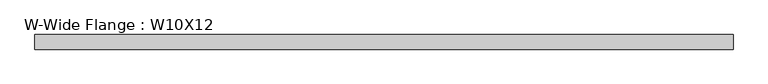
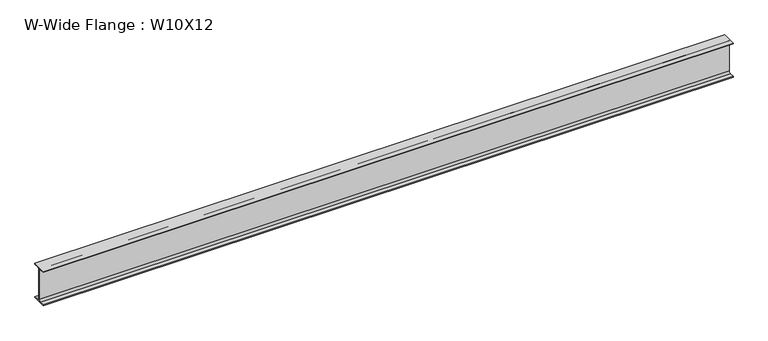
"""IFC4 building model written with IfcOpenShell, lengths in millimetres: beam geometry, W-Wide Flange : W10X12."""

from ifc_helpers import new_model, si_unit, point, frame, frame_2d, origin, place, context, project, spatial, polyline, circle_curve, trimmed, segment, composite_curve, outline, extrude, source, transform, mapped, element, save


def w_wide_flange_w10x12_ebacd2cb(model_context):
    return source(origin(), model_context, "Body", "SweptSolid", [
        extrude(outline(composite_curve([segment(polyline([(50.292, -120.015), (50.292, -125.349), (-50.292, -125.349), (-50.292, -120.015), (-16.129, -120.015)]), True, "CONTINUOUS"), segment(trimmed(circle_curve(frame_2d((-16.129, -106.299)), 13.716), [point((-16.129, -120.015))], [point((-2.413, -106.299))], True, "CARTESIAN"), True, "CONTINUOUS"), segment(polyline([(-2.413, -106.299), (-2.413, 106.299)]), True, "CONTINUOUS"), segment(trimmed(circle_curve(frame_2d((-16.129, 106.299)), 13.716), [point((-2.413, 106.299))], [point((-16.129, 120.015))], True, "CARTESIAN"), True, "CONTINUOUS"), segment(polyline([(-16.129, 120.015), (-50.292, 120.015), (-50.292, 125.349), (50.292, 125.349), (50.292, 120.015), (16.129, 120.015)]), True, "CONTINUOUS"), segment(trimmed(circle_curve(frame_2d((16.129, 106.299)), 13.716), [point((16.129, 120.015))], [point((2.413, 106.299))], True, "CARTESIAN"), True, "CONTINUOUS"), segment(polyline([(2.413, 106.299), (2.413, -106.299)]), True, "CONTINUOUS"), segment(trimmed(circle_curve(frame_2d((16.129, -106.299)), 13.716), [point((2.413, -106.299))], [point((16.129, -120.015))], True, "CARTESIAN"), True, "CONTINUOUS"), segment(polyline([(16.129, -120.015), (50.292, -120.015)]), True, "CONTINUOUS")], self_intersect=False)), frame((-2389.1378906, 0.0, 0.0), z_axis=(1.0, 0.0, 0.0), x_axis=(0.0, 1.0, 0.0)), (0.0, 0.0, 1.0), 4809.6943906),
    ])


if __name__ == "__main__":
    model = new_model("IFC4")
    model_context = context("Model", 3, world=origin())
    ifc_project = project(units=[si_unit("LENGTHUNIT", "METRE", prefix="MILLI")], contexts=[model_context])
    site = spatial("IfcSite", under=ifc_project)
    building = spatial("IfcBuilding", under=site)
    placement = place(None, origin())
    w_wide_flange_w10x12_shape = w_wide_flange_w10x12_ebacd2cb(model_context)
    element("IfcBeam", 1, ObjectType="W-Wide Flange : W10X12", at=placement, inside=building, context=model_context, shape_type="MappedRepresentation", body=[
        mapped(w_wide_flange_w10x12_shape, transform((0.0, 0.0, 0.0), x_axis=(1.0, 0.0, 0.0), y_axis=(0.0, 1.0, 0.0), z_axis=(0.0, 0.0, 1.0))),
    ])
    save(model, "model.ifc")
